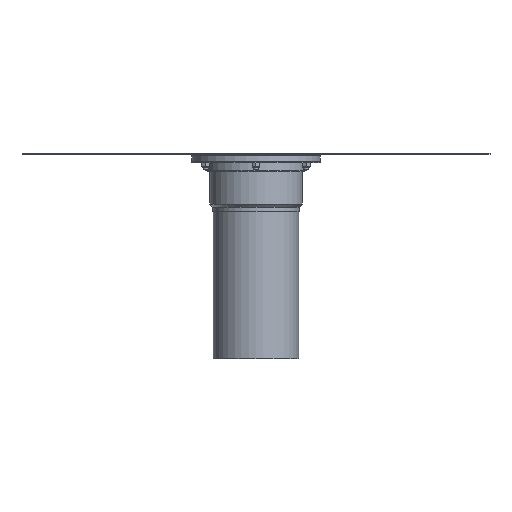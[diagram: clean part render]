
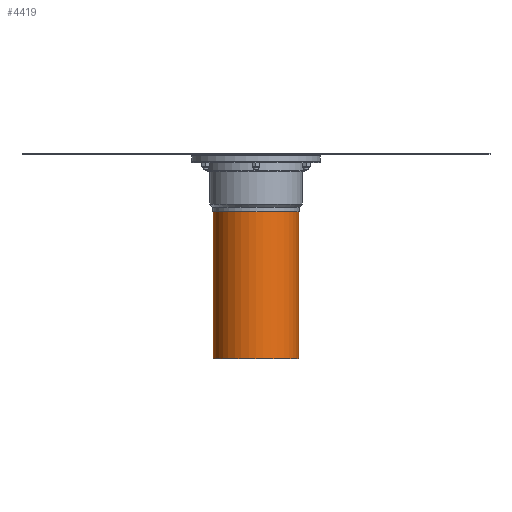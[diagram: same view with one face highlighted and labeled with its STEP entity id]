
A CAD part, front view. The second image highlights one B-rep face of the part: STEP entity #4419.
In plain terms, the highlighted cylindrical face has radius 55 mm (diameter 110 mm), a full revolution.
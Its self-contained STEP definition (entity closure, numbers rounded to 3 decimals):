
#161=CYLINDRICAL_SURFACE('',#4906,55.);
#556=FACE_BOUND('',#1476,.T.);
#988=FACE_OUTER_BOUND('',#1475,.T.);
#1475=EDGE_LOOP('',(#3716));
#1476=EDGE_LOOP('',(#3717));
#1922=CIRCLE('',#4903,55.);
#1924=CIRCLE('',#4907,55.);
#2355=VERTEX_POINT('',#8091);
#2357=VERTEX_POINT('',#8097);
#2842=EDGE_CURVE('',#2355,#2355,#1922,.T.);
#2844=EDGE_CURVE('',#2357,#2357,#1924,.T.);
#3716=ORIENTED_EDGE('',*,*,#2844,.F.);
#3717=ORIENTED_EDGE('',*,*,#2842,.T.);
#4419=ADVANCED_FACE('',(#988,#556),#161,.T.);
#4903=AXIS2_PLACEMENT_3D('',#8092,#5903,#5904);
#4906=AXIS2_PLACEMENT_3D('',#8096,#5909,#5910);
#4907=AXIS2_PLACEMENT_3D('',#8098,#5911,#5912);
#5903=DIRECTION('center_axis',(0.,0.,
1.));
#5904=DIRECTION('ref_axis',(0.,1.,0.));
#5909=DIRECTION('center_axis',(0.,0.,
1.));
#5910=DIRECTION('ref_axis',(0.,1.,0.));
#5911=DIRECTION('center_axis',(0.,0.,
1.));
#5912=DIRECTION('ref_axis',(0.,1.,0.));
#8091=CARTESIAN_POINT('',(0.,-55.,-262.5));
#8092=CARTESIAN_POINT('Origin',(0.,0.,
-262.5));
#8096=CARTESIAN_POINT('Origin',(0.,0.,
2237.5));
#8097=CARTESIAN_POINT('',(0.,-55.,-73.5));
#8098=CARTESIAN_POINT('Origin',(0.,0.,
-73.5));
